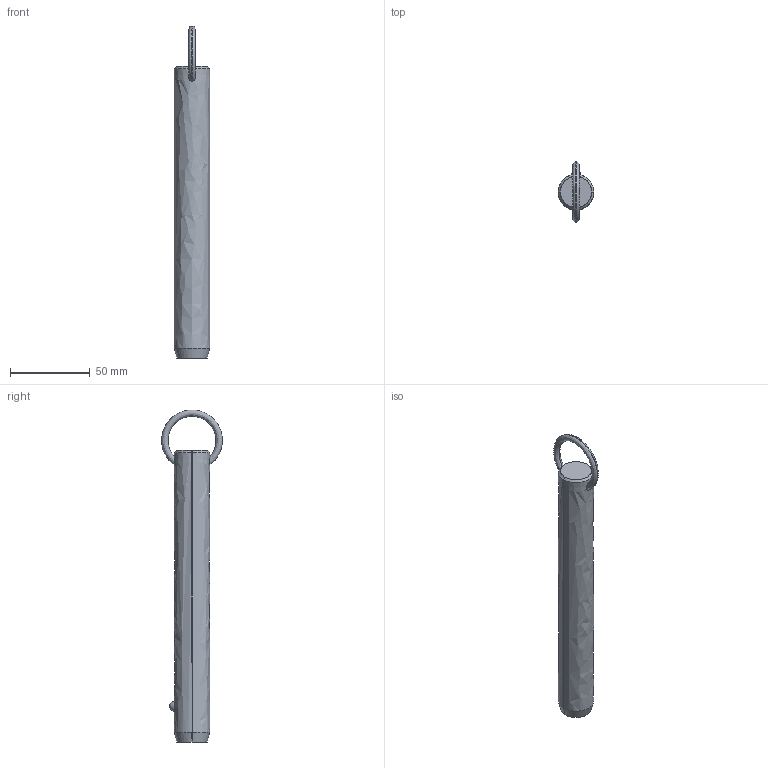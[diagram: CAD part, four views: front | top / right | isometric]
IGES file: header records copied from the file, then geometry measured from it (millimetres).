
Start section: SolidWorks IGES file using analytic representation for surfaces
Global section: file name: C:\Users\liam_\OneDrive\Documents\WORK\Work for WixRoyd\Job Files\J-00019 - Matt Davis CAD Checking\04. CAD Drawings\automotion20190605\P1250.2_v2\P1250.2_v2_20190729_IGES\P1250.087-570.igs; native system: SolidWorks 2017; preprocessor: SolidWorks 2017; author: liam_; date: 190730.001738; units: millimetre
Bounding box: 22.2 x 38.09 x 208.29 mm (x, y, z)
Surface area: 14399.8 mm2 (no closed solid volume)
Topology: 0 solids, 0 shells, 12 faces, 302 edges, 300 vertices
Faces by surface type: revolution 8, bspline 4
